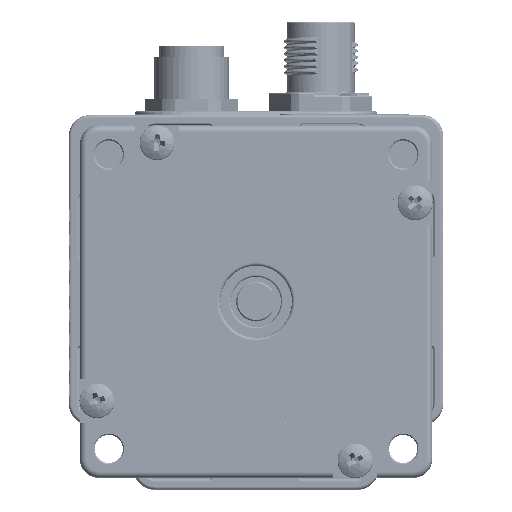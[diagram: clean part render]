
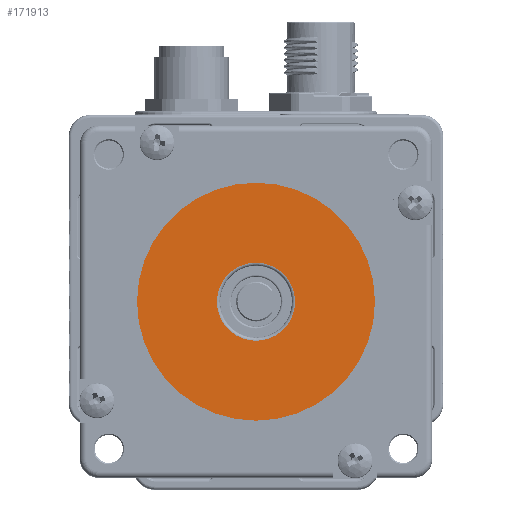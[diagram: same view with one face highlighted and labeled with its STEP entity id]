
A CAD part, top view. The second image highlights one B-rep face of the part: STEP entity #171913.
In plain terms, the highlighted planar face has unit normal (0, 0, 1).
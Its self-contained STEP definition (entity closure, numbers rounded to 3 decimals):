
#4409 = ORIENTED_EDGE ( 'NONE', *, *, #71509, .T. ) ;
#7078 = CARTESIAN_POINT ( 'NONE',  ( -24.576, -2.224, 84.595 ) ) ;
#17321 = FACE_BOUND ( 'NONE', #195843, .T. ) ;
#21026 = CARTESIAN_POINT ( 'NONE',  ( -5.526, -2.224, 84.595 ) ) ;
#69381 = ORIENTED_EDGE ( 'NONE', *, *, #151635, .T. ) ;
#71509 = EDGE_CURVE ( 'NONE', #94203, #239005, #294388, .T. ) ;
#75321 = DIRECTION ( 'NONE',  ( 1., 0., 0. ) ) ;
#77100 = ORIENTED_EDGE ( 'NONE', *, *, #87553, .T. ) ;
#84159 = CIRCLE ( 'NONE', #235562, 19.05 ) ;
#86164 = PLANE ( 'NONE',  #225589 ) ;
#87553 = EDGE_CURVE ( 'NONE', #239005, #94203, #189777, .T. ) ;
#89204 = DIRECTION ( 'NONE',  ( 1., 0., 0. ) ) ;
#89250 = AXIS2_PLACEMENT_3D ( 'NONE', #21026, #183322, #112851 ) ;
#94203 = VERTEX_POINT ( 'NONE', #106061 ) ;
#106061 = CARTESIAN_POINT ( 'NONE',  ( 0.724, -2.224, 84.595 ) ) ;
#111494 = AXIS2_PLACEMENT_3D ( 'NONE', #221032, #230001, #89204 ) ;
#112851 = DIRECTION ( 'NONE',  ( 1., 0., 0. ) ) ;
#131544 = ORIENTED_EDGE ( 'NONE', *, *, #172162, .T. ) ;
#151635 = EDGE_CURVE ( 'NONE', #242169, #165633, #250200, .T. ) ;
#151655 = CARTESIAN_POINT ( 'NONE',  ( -5.526, -2.224, 84.595 ) ) ;
#152023 = DIRECTION ( 'NONE',  ( 0., 0., 1. ) ) ;
#165633 = VERTEX_POINT ( 'NONE', #7078 ) ;
#167144 = DIRECTION ( 'NONE',  ( 0., 0., 1. ) ) ;
#171913 = ADVANCED_FACE ( 'NONE', ( #17321, #201137 ), #86164, .T. ) ;
#172162 = EDGE_CURVE ( 'NONE', #165633, #242169, #84159, .T. ) ;
#172734 = CARTESIAN_POINT ( 'NONE',  ( -11.776, -2.224, 84.595 ) ) ;
#183322 = DIRECTION ( 'NONE',  ( 0., 0., -1. ) ) ;
#185138 = EDGE_LOOP ( 'NONE', ( #69381, #131544 ) ) ;
#189777 = CIRCLE ( 'NONE', #111494, 6.25 ) ;
#195843 = EDGE_LOOP ( 'NONE', ( #4409, #77100 ) ) ;
#199645 = DIRECTION ( 'NONE',  ( 1., 0., 0. ) ) ;
#201137 = FACE_OUTER_BOUND ( 'NONE', #185138, .T. ) ;
#221032 = CARTESIAN_POINT ( 'NONE',  ( -5.526, -2.224, 84.595 ) ) ;
#225589 = AXIS2_PLACEMENT_3D ( 'NONE', #268389, #152023, #199645 ) ;
#230001 = DIRECTION ( 'NONE',  ( 0., 0., -1. ) ) ;
#235562 = AXIS2_PLACEMENT_3D ( 'NONE', #281862, #167144, #75321 ) ;
#239005 = VERTEX_POINT ( 'NONE', #172734 ) ;
#242169 = VERTEX_POINT ( 'NONE', #244355 ) ;
#243450 = DIRECTION ( 'NONE',  ( 1., 0., 0. ) ) ;
#244355 = CARTESIAN_POINT ( 'NONE',  ( 13.524, -2.224, 84.595 ) ) ;
#250200 = CIRCLE ( 'NONE', #255037, 19.05 ) ;
#255037 = AXIS2_PLACEMENT_3D ( 'NONE', #151655, #290945, #243450 ) ;
#268389 = CARTESIAN_POINT ( 'NONE',  ( 22.674, -30.424, 84.595 ) ) ;
#281862 = CARTESIAN_POINT ( 'NONE',  ( -5.526, -2.224, 84.595 ) ) ;
#290945 = DIRECTION ( 'NONE',  ( 0., 0., 1. ) ) ;
#294388 = CIRCLE ( 'NONE', #89250, 6.25 ) ;
